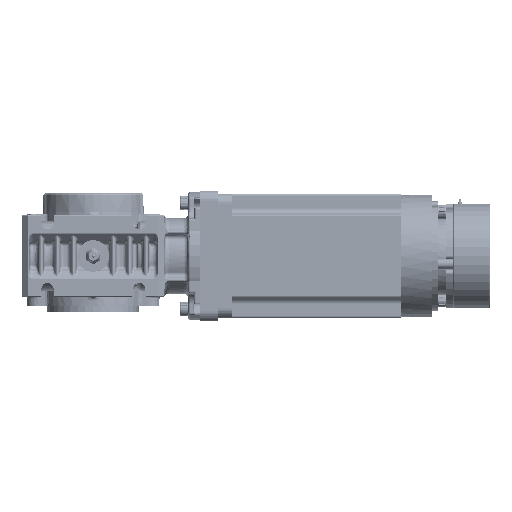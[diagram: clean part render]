
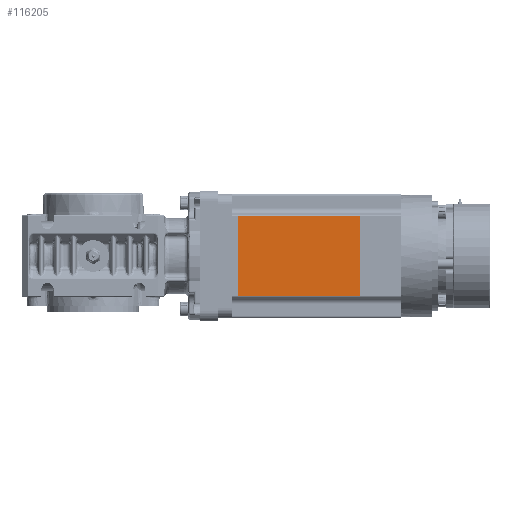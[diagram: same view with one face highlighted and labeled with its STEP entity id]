
A CAD part, front view. The second image highlights one B-rep face of the part: STEP entity #116205.
In plain terms, the highlighted planar face has unit normal (0, -1, 0).
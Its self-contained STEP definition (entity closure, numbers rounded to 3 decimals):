
#4803 = EDGE_CURVE ( 'NONE', #34492, #351852, #393432, .T. ) ;
#17731 = LINE ( 'NONE', #47631, #319285 ) ;
#21488 = LINE ( 'NONE', #51332, #218394 ) ;
#29946 = DIRECTION ( 'NONE',  ( 1., 0., 0. ) ) ;
#34492 = VERTEX_POINT ( 'NONE', #334545 ) ;
#41146 = DIRECTION ( 'NONE',  ( -1., 0., 0. ) ) ;
#41713 = DIRECTION ( 'NONE',  ( 0., 0., -1. ) ) ;
#41864 = EDGE_LOOP ( 'NONE', ( #327378, #355190, #186473, #79473 ) ) ;
#47631 = CARTESIAN_POINT ( 'NONE',  ( 13.16, 1.5, -6.5 ) ) ;
#51332 = CARTESIAN_POINT ( 'NONE',  ( 33.16, 1.5, -51.5 ) ) ;
#59826 = CARTESIAN_POINT ( 'NONE',  ( 33.16, 1.5, -6.5 ) ) ;
#61846 = EDGE_CURVE ( 'NONE', #34492, #78010, #21488, .T. ) ;
#78010 = VERTEX_POINT ( 'NONE', #390802 ) ;
#79473 = ORIENTED_EDGE ( 'NONE', *, *, #61846, .T. ) ;
#88737 = CARTESIAN_POINT ( 'NONE',  ( -46.84, 1.5, -6.5 ) ) ;
#95229 = VERTEX_POINT ( 'NONE', #269808 ) ;
#111123 = DIRECTION ( 'NONE',  ( 1., 0., 0. ) ) ;
#116205 = ADVANCED_FACE ( 'NONE', ( #308684 ), #332764, .T. ) ;
#139128 = EDGE_CURVE ( 'NONE', #95229, #351852, #162658, .T. ) ;
#162658 = LINE ( 'NONE', #252276, #272380 ) ;
#181280 = DIRECTION ( 'NONE',  ( 0., -1., 0. ) ) ;
#186473 = ORIENTED_EDGE ( 'NONE', *, *, #4803, .F. ) ;
#218394 = VECTOR ( 'NONE', #111123, 1000. ) ;
#252276 = CARTESIAN_POINT ( 'NONE',  ( -49.84, 1.5, -12.5 ) ) ;
#255915 = VECTOR ( 'NONE', #365575, 1000. ) ;
#269808 = CARTESIAN_POINT ( 'NONE',  ( 13.16, 1.5, -12.5 ) ) ;
#272380 = VECTOR ( 'NONE', #41146, 1000. ) ;
#308684 = FACE_OUTER_BOUND ( 'NONE', #41864, .T. ) ;
#310139 = AXIS2_PLACEMENT_3D ( 'NONE', #59826, #181280, #29946 ) ;
#319285 = VECTOR ( 'NONE', #41713, 1000. ) ;
#325544 = CARTESIAN_POINT ( 'NONE',  ( -46.84, 1.5, -12.5 ) ) ;
#327378 = ORIENTED_EDGE ( 'NONE', *, *, #350172, .F. ) ;
#332764 = PLANE ( 'NONE',  #310139 ) ;
#334545 = CARTESIAN_POINT ( 'NONE',  ( -46.84, 1.5, -51.5 ) ) ;
#350172 = EDGE_CURVE ( 'NONE', #95229, #78010, #17731, .T. ) ;
#351852 = VERTEX_POINT ( 'NONE', #325544 ) ;
#355190 = ORIENTED_EDGE ( 'NONE', *, *, #139128, .T. ) ;
#365575 = DIRECTION ( 'NONE',  ( 0., 0., 1. ) ) ;
#390802 = CARTESIAN_POINT ( 'NONE',  ( 13.16, 1.5, -51.5 ) ) ;
#393432 = LINE ( 'NONE', #88737, #255915 ) ;
